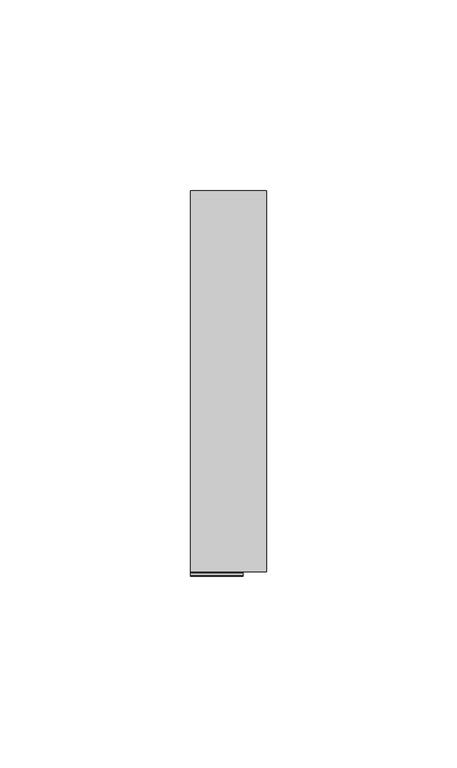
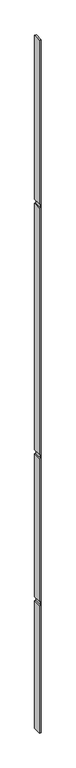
"""IFC4 building model written with IfcOpenShell, lengths in millimetres: plate geometry, システム パネルなし : なし."""

from ifc_helpers import new_model, si_unit, frame, origin, place, context, project, spatial, polyline, outline, extrude, source, transform, mapped, element, save


def plate_63aab1e6(model_context):
    return source(origin(), model_context, "Body", "SweptSolid", [
        extrude(outline(polyline([(0.0, -10.0), (0.0, 10.0), (8902.0, 10.0), (8902.0, -10.0), (6797.6304348, -10.0), (6797.6304348, 3.8934791), (6743.6966434, 3.8934791), (6743.6966434, -10.0), (3579.7255501, -10.0), (3579.7255501, 3.8934791), (3525.7917587, 3.8934791), (3525.7917587, -10.0), (1692.1700394, -10.0), (1692.1700394, 3.8934791), (1638.2362479, 3.8934791), (1638.2362479, -10.0), (0.0, -10.0)])), frame((0.0, -50.0, 0.0), z_axis=(0.0, 1.0, 0.0), x_axis=(0.0, 0.0, 1.0)), (0.0, 0.0, 1.0), 100.0),
    ])


if __name__ == "__main__":
    model = new_model("IFC4")
    model_context = context("Model", 3, world=origin())
    ifc_project = project(units=[si_unit("LENGTHUNIT", "METRE", prefix="MILLI")], contexts=[model_context])
    site = spatial("IfcSite", under=ifc_project)
    building = spatial("IfcBuilding", under=site)
    placement = place(None, origin())
    plate_shape = plate_63aab1e6(model_context)
    element("IfcPlate", 1, ObjectType="システム パネルなし : なし", at=placement, inside=building, context=model_context, shape_type="MappedRepresentation", body=[
        mapped(plate_shape, transform((0.0, 0.0, 0.0), x_axis=(1.0, 0.0, 0.0), y_axis=(0.0, 1.0, 0.0), z_axis=(0.0, 0.0, 1.0))),
    ])
    save(model, "model.ifc")
